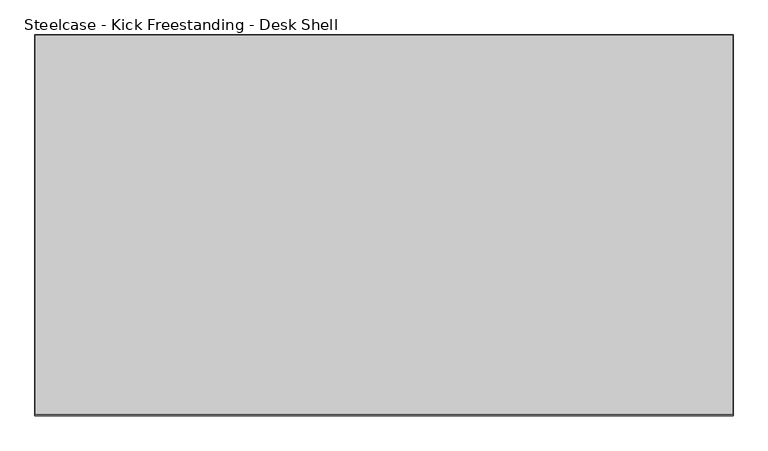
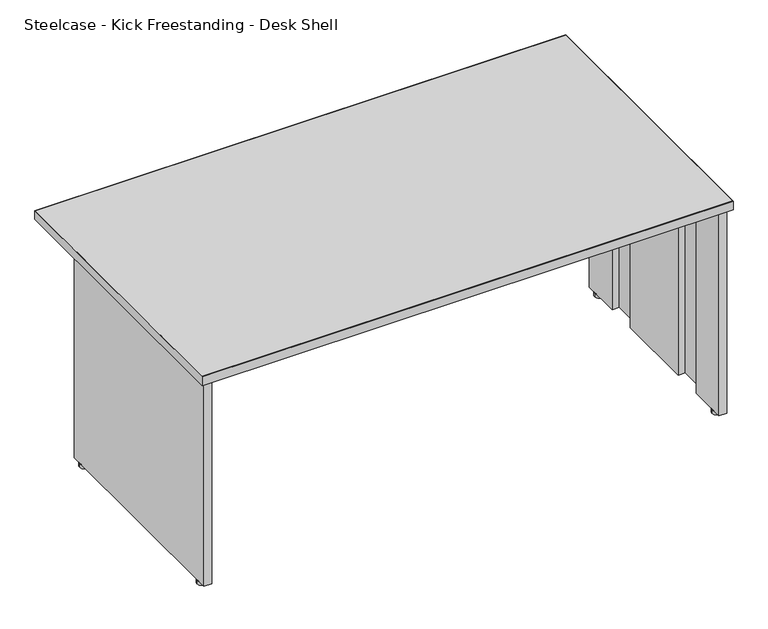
"""IFC4 building model written with IfcOpenShell, lengths in millimetres: furniture geometry, Steelcase - Kick Freestanding - Desk Shell : 36D x 66W."""

from ifc_helpers import new_model, si_unit, point, frame, frame_2d, origin, origin_with_axes, place, context, project, spatial, polyline, circle_curve, trimmed, segment, composite_curve, outline, extrude, source, transform, mapped, element, save


def steelcase_kick_freestanding_desk_shell_72a3b2b7(model_context):
    return source(origin(), model_context, "Body", "SweptSolid", [
        extrude(outline(composite_curve([segment(trimmed(circle_curve(frame_2d((665.1357759, -1156.6087877)), 13.97), [point((651.1657759, -1156.6087877))], [point((679.1057759, -1156.6087877))], False, "CARTESIAN"), True, "CONTINUOUS"), segment(trimmed(circle_curve(frame_2d((665.1357759, -1156.6087877)), 13.97), [point((679.1057759, -1156.6087877))], [point((651.1657759, -1156.6087877))], False, "CARTESIAN"), True, "CONTINUOUS")], self_intersect=False)), origin_with_axes(), (0.0, 0.0, 1.0), 12.446),
        extrude(outline(composite_curve([segment(trimmed(circle_curve(frame_2d((665.1357759, -1798.4441481)), 13.97), [point((651.1657759, -1798.4441481))], [point((679.1057759, -1798.4441481))], False, "CARTESIAN"), True, "CONTINUOUS"), segment(trimmed(circle_curve(frame_2d((665.1357759, -1798.4441481)), 13.97), [point((679.1057759, -1798.4441481))], [point((651.1657759, -1798.4441481))], False, "CARTESIAN"), True, "CONTINUOUS")], self_intersect=False)), origin_with_axes(), (0.0, 0.0, 1.0), 12.446),
        extrude(outline(polyline([(2279.0738425, -1248.4529604), (2279.0738425, -1125.1867604), (2303.5594421, -1125.1867604), (2303.5594421, -1833.338741), (2279.0738421, -1833.338741), (2279.0738421, -1709.0311348), (2301.5020425, -1709.0311348), (2301.5020425, -1609.3107682), (2279.0738421, -1609.3107682), (2279.0738421, -1348.1733647), (2301.5020425, -1348.1733647), (2301.5020425, -1248.4529604), (2279.0738425, -1248.4529604)])), frame((0.0, 0.0, 12.446), z_axis=(0.0, 0.0, 1.0), x_axis=(1.0, 0.0, 0.0)), (0.0, 0.0, 1.0), 682.498),
        extrude(outline(polyline([(677.0450425, -1248.4529604), (654.6168425, -1248.4529604), (654.6168425, -1348.1733647), (677.0450429, -1348.1733647), (677.0450429, -1609.3107682), (654.6168425, -1609.3107682), (654.6168425, -1709.0311348), (677.0450429, -1709.0311348), (677.0450429, -1833.338741), (652.5594429, -1833.338741), (652.5594429, -1125.1867604), (677.0450425, -1125.1867604), (677.0450425, -1248.4529604)])), frame((0.0, 0.0, 12.446), z_axis=(0.0, 0.0, 1.0), x_axis=(1.0, 0.0, 0.0)), (0.0, 0.0, 1.0), 682.498),
        extrude(outline(polyline([(2315.2688425, -932.6293604), (2315.2688425, -1843.0669215), (640.8500425, -1843.0669215), (640.8500425, -932.6293604), (2315.2688425, -932.6293604)])), frame((0.0, 0.0, 694.944), z_axis=(0.0, 0.0, 1.0), x_axis=(1.0, 0.0, 0.0)), (0.0, 0.0, 1.0), 28.956),
        extrude(outline(polyline([(2316.2594425, -931.6387604), (2316.2594425, -1846.0387604), (639.8594425, -1846.0387604), (639.8594425, -931.6387604), (2316.2594425, -931.6387604)]), holes=[polyline([(2315.2688425, -932.6293604), (640.8500425, -932.6293604), (640.8500425, -1843.0669215), (2315.2688425, -1843.0669215), (2315.2688425, -932.6293604)])]), frame((0.0, 0.0, 694.944), z_axis=(0.0, 0.0, 1.0), x_axis=(1.0, 0.0, 0.0)), (0.0, 0.0, 1.0), 28.956),
        extrude(outline(composite_curve([segment(trimmed(circle_curve(frame_2d((2290.9831091, -1798.4441481)), 13.97), [point((2277.0131091, -1798.4441481))], [point((2304.9531091, -1798.4441481))], False, "CARTESIAN"), True, "CONTINUOUS"), segment(trimmed(circle_curve(frame_2d((2290.9831091, -1798.4441481)), 13.97), [point((2304.9531091, -1798.4441481))], [point((2277.0131091, -1798.4441481))], False, "CARTESIAN"), True, "CONTINUOUS")], self_intersect=False)), origin_with_axes(), (0.0, 0.0, 1.0), 12.446),
        extrude(outline(composite_curve([segment(trimmed(circle_curve(frame_2d((2290.9831091, -1156.6087877)), 13.97), [point((2304.9531091, -1156.6087877))], [point((2277.0131091, -1156.6087877))], False, "CARTESIAN"), True, "CONTINUOUS"), segment(trimmed(circle_curve(frame_2d((2290.9831091, -1156.6087877)), 13.97), [point((2277.0131091, -1156.6087877))], [point((2304.9531091, -1156.6087877))], False, "CARTESIAN"), True, "CONTINUOUS")], self_intersect=False)), origin_with_axes(), (0.0, 0.0, 1.0), 12.446),
    ])


if __name__ == "__main__":
    model = new_model("IFC4")
    model_context = context("Model", 3, world=origin())
    ifc_project = project(units=[si_unit("LENGTHUNIT", "METRE", prefix="MILLI")], contexts=[model_context])
    site = spatial("IfcSite", under=ifc_project)
    building = spatial("IfcBuilding", under=site)
    placement = place(None, origin())
    steelcase_kick_freestanding_desk_shell_shape = steelcase_kick_freestanding_desk_shell_72a3b2b7(model_context)
    element("IfcFurniture", 1, ObjectType="Steelcase - Kick Freestanding - Desk Shell : 36D x 66W", at=placement, inside=building, context=model_context, shape_type="MappedRepresentation", body=[
        mapped(steelcase_kick_freestanding_desk_shell_shape, transform((0.0, 0.0, 0.0), x_axis=(1.0, 0.0, 0.0), y_axis=(0.0, 1.0, 0.0), z_axis=(0.0, 0.0, 1.0))),
    ])
    save(model, "model.ifc")
